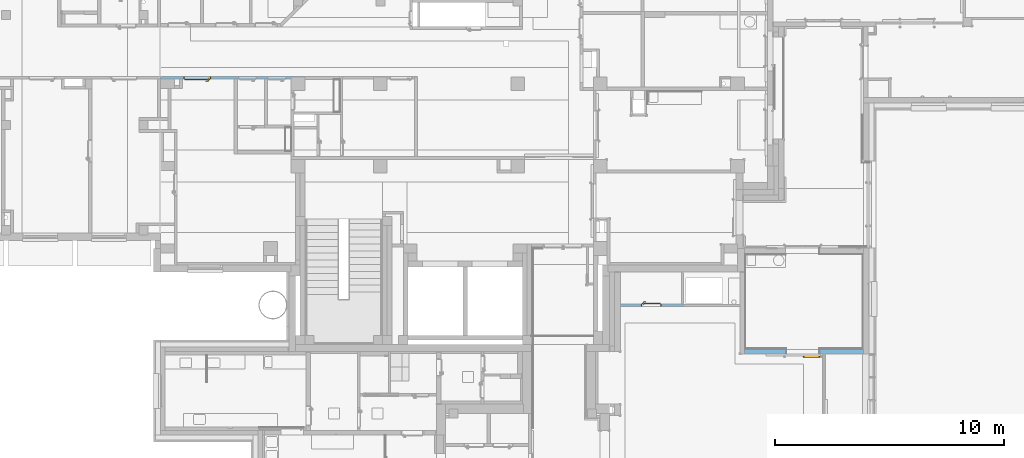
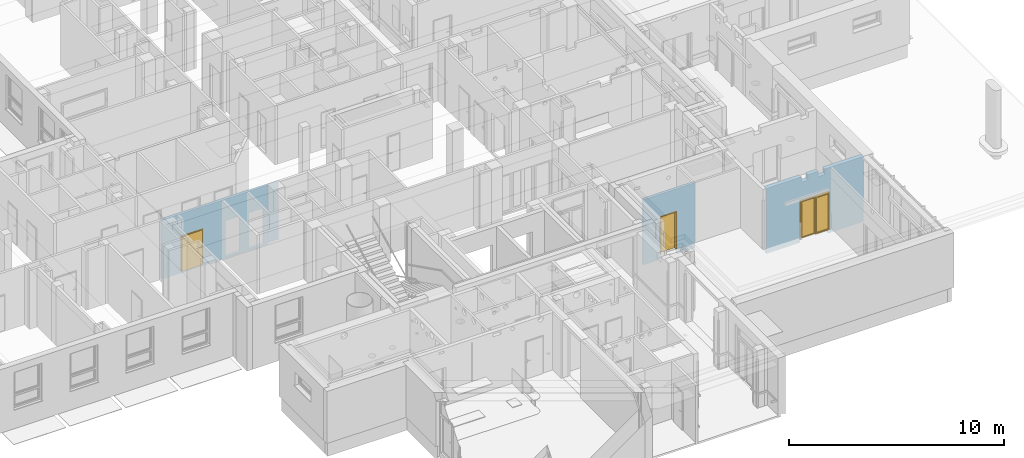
# One storey, part 78 of 140: 3 doors, 7 openings, plus 3 elements that do not belong to this part.
"""IFC4 building model written with IfcOpenShell, lengths in metres."""

from ifc_helpers import new_model, entity, si_unit, converted_unit, derived_unit, frame, frame_2d, origin, origin_with_axes, place, context, subcontext, project, spatial, polyline, rectangle, outline, extrude, closed_shell, open_shell, surface_model, source, transform, mapped, material, layer, layer_set, layer_usage, type_object, element, fill, save


model = new_model("IFC4")

# Units and contexts
model_context = context("Model", 3, precision=1e-05, world=origin())
body_context = subcontext(model_context, "Body", "Model", "MODEL_VIEW")
ifc_project = project(units=[si_unit("LENGTHUNIT", "METRE"), si_unit("AREAUNIT", "SQUARE_METRE"), si_unit("VOLUMEUNIT", "CUBIC_METRE"), si_unit("MASSUNIT", "GRAM", prefix="KILO"), converted_unit("PLANEANGLEUNIT", "DEGREE", entity("IfcPlaneAngleMeasure", 0.0174532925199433), si_unit("PLANEANGLEUNIT", "RADIAN"), dimensions=[0, 0, 0, 0, 0, 0, 0]), derived_unit("THERMALTRANSMITTANCEUNIT", [(si_unit("POWERUNIT", "WATT"), 1), (si_unit("THERMODYNAMICTEMPERATUREUNIT", "KELVIN"), -1), (si_unit("LENGTHUNIT", "METRE"), -2)]), derived_unit("VOLUMETRICFLOWRATEUNIT", [(si_unit("LENGTHUNIT", "METRE"), 3), (converted_unit("TIMEUNIT", "hour", entity("IfcTimeMeasure", 3600.0), si_unit("TIMEUNIT", "SECOND"), dimensions=[0, 0, 1, 0, 0, 0, 0]), -1), (si_unit("LENGTHUNIT", "METRE"), -1)])], contexts=[model_context])

# Site, building, storey
site_placement = place(None, origin())
site = spatial("IfcSite", under=ifc_project, at=site_placement, Name="3. ASŘ", CompositionType="ELEMENT")
building_placement = place(site_placement, origin())
building = spatial("IfcBuilding", under=site, at=building_placement, Name="Pavilon C", CompositionType="ELEMENT")
storey_placement = place(building_placement, origin())
storey = spatial("IfcBuildingStorey", under=building, at=storey_placement, Name="Půdorys 1.NP", CompositionType="ELEMENT", Elevation=0.0)

# Wall, openings, door
ifc_material_1 = material(Name="ZDIVO Z CDm")
ifc_layer_1 = layer(ifc_material_1, 0.125)
ifc_layer_set_1 = layer_set([ifc_layer_1])
ifc_layer_usage_1 = layer_usage(ifc_layer_set_1, "AXIS2", "POSITIVE", 0.0)
wall_1_placement = place(storey_placement, frame((31.05, 7.525, -0.1), z_axis=(0.0, 0.0, 1.0), x_axis=(-1.0, 0.0, 0.0)))
wall_1 = element("IfcWall", 1, at=wall_1_placement, inside=storey, material=ifc_layer_usage_1, Name="ZDIVO Z CDm", context=body_context, shape_type="SweptSolid", body=[
    extrude(outline(polyline([(-6.3, -0.125), (0.0, -0.125), (0.0, 0.0), (-5.7, 0.0), (-5.7, -0.0999999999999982), (-6.3, -0.0999999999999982), (-6.3, -0.125)])), frame((6.3, 0.125, 0.0), z_axis=(0.0, 0.0, 1.0), x_axis=(1.0, 0.0, 0.0)), (0.0, 0.0, 1.0), 3.35),
])
opening_1_placement = place(wall_1_placement, frame((4.1, 0.0, 0.1), z_axis=(0.0, 1.0, 0.0), x_axis=(0.0, 0.0, 1.0)))
opening_1 = element("IfcOpeningElement", 2, at=opening_1_placement, cuts=wall_1, Name="Dveřní otvor", ObjectType="Opening", context=body_context, shape_type="SweptSolid", body=[
    extrude(outline(polyline([(0.0, 1.2), (2.02, 1.2), (2.02, 0.0), (0.0, 0.0), (0.0, 1.2)])), origin_with_axes(), (0.0, 0.0, 1.0), 0.125),
])
opening_2_placement = place(wall_1_placement, frame((1.62499999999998, 0.125, 0.1), z_axis=(0.0, -1.0, 0.0), x_axis=(0.0, 0.0, 1.0)))
element("IfcOpeningElement", 3, at=opening_2_placement, cuts=wall_1, Name="Dveřní otvor", ObjectType="Opening", context=body_context, shape_type="SweptSolid", body=[
    extrude(outline(polyline([(0.0, 0.8), (2.02, 0.8), (2.02, 0.0), (0.0, 0.0), (0.0, 0.8)])), origin_with_axes(), (0.0, 0.0, 1.0), 0.125),
])
opening_3_placement = place(wall_1_placement, frame((2.09999999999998, 0.0, 0.1), z_axis=(0.0, 1.0, 0.0), x_axis=(0.0, 0.0, 1.0)))
element("IfcOpeningElement", 4, at=opening_3_placement, cuts=wall_1, Name="Dveřní otvor", ObjectType="Opening", context=body_context, shape_type="SweptSolid", body=[
    extrude(outline(polyline([(0.0, 0.8), (2.02, 0.8), (2.02, 0.0), (0.0, 0.0), (0.0, 0.8)])), origin_with_axes(), (0.0, 0.0, 1.0), 0.125),
])
door_type_1 = type_object("IfcDoorType", Name="D101", OperationType="NOTDEFINED", ParameterTakesPrecedence=False, PredefinedType="DOOR")
shared_shape_1 = source(origin_with_axes(), body_context, "Body", "SurfaceModel", [
    surface_model("IfcShellBasedSurfaceModel", [(0.0, 0.125, 2.02), (0.0, 0.125, -7.65404249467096e-18), (0.05, 0.125, -7.65404249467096e-18), (0.05, 0.125, 2.02), (0.0, 0.0, 7.65404249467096e-18), (0.0, 2.41584530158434e-16, 2.02), (0.05, 2.41584530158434e-16, 2.02), (0.05, 0.0, 7.65404249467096e-18)], [closed_shell([[[0, 1, 2, 3]], [[4, 5, 6, 7]], [[1, 0, 5, 4]], [[2, 1, 4, 7]], [[3, 2, 7, 6]], [[0, 3, 6, 5]]], orient=[[False], [False], [False], [False], [False], [False]])]),
    surface_model("IfcShellBasedSurfaceModel", [(1.15, 0.125, 2.02), (1.15, 0.125, -7.65404249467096e-18), (1.2, 0.125, -7.65404249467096e-18), (1.2, 0.125, 2.02), (1.15, 0.0, 7.65404249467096e-18), (1.15, 2.41584530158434e-16, 2.02), (1.2, 2.41584530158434e-16, 2.02), (1.2, 0.0, 7.65404249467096e-18)], [closed_shell([[[0, 1, 2, 3]], [[4, 5, 6, 7]], [[1, 0, 5, 4]], [[2, 1, 4, 7]], [[3, 2, 7, 6]], [[0, 3, 6, 5]]], orient=[[False], [False], [False], [False], [False], [False]])]),
    surface_model("IfcShellBasedSurfaceModel", [(0.05, 0.125, 2.02), (0.05, 0.125, 1.97), (1.15, 0.125, 1.97), (1.15, 0.125, 2.02), (0.05, 2.41584530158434e-16, 1.97), (0.05, 2.41584530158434e-16, 2.02), (1.15, 2.41584530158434e-16, 2.02), (1.15, 2.41584530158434e-16, 1.97)], [closed_shell([[[0, 1, 2, 3]], [[4, 5, 6, 7]], [[1, 0, 5, 4]], [[2, 1, 4, 7]], [[3, 2, 7, 6]], [[0, 3, 6, 5]]], orient=[[False], [False], [False], [False], [False], [False]])]),
    surface_model("IfcShellBasedSurfaceModel", [(0.05, 0.165, 1.97), (0.05, 0.165, -1.25526296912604e-17), (1.15, 0.165, -1.25526296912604e-17), (1.15, 0.165, 1.97), (0.05, 0.125, -7.65404249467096e-18), (0.05, 0.125, 1.97), (1.15, 0.125, 1.97), (1.15, 0.125, -7.65404249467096e-18)], [closed_shell([[[0, 1, 2, 3]], [[4, 5, 6, 7]], [[1, 0, 5, 4]], [[2, 1, 4, 7]], [[3, 2, 7, 6]], [[0, 3, 6, 5]]], orient=[[False], [False], [False], [False], [False], [False]])]),
    surface_model("IfcShellBasedSurfaceModel", [(1.06, 0.125, 1.125), (1.06, 0.125, 0.91), (1.11, 0.125, 0.91), (1.11, 0.125, 1.125), (1.06, 0.115, 0.91), (1.06, 0.115, 1.125), (1.11, 0.115, 1.125), (1.11, 0.115, 0.91)], [closed_shell([[[0, 1, 2, 3]], [[4, 5, 6, 7]], [[1, 0, 5, 4]], [[2, 1, 4, 7]], [[3, 2, 7, 6]], [[0, 3, 6, 5]]], orient=[[False], [False], [False], [False], [False], [False]])]),
    surface_model("IfcShellBasedSurfaceModel", [(1.085, 0.115, 1.06), (1.08, 0.115, 1.05866025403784), (1.07633974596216, 0.115, 1.055), (1.075, 0.115, 1.05), (1.07633974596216, 0.115, 1.045), (1.08, 0.115, 1.04133974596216), (1.085, 0.115, 1.04), (1.09, 0.115, 1.04133974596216), (1.09366025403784, 0.115, 1.045), (1.095, 0.115, 1.05), (1.09366025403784, 0.115, 1.055), (1.09, 0.115, 1.05866025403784), (1.09, 0.0700000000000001, 1.05866025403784), (1.085, 0.0750000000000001, 1.06), (1.09366025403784, 0.0663397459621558, 1.055), (1.095, 0.0650000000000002, 1.05), (1.09366025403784, 0.0663397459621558, 1.045), (1.09, 0.0700000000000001, 1.04133974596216), (1.085, 0.0750000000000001, 1.04), (1.08, 0.0800000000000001, 1.04133974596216), (1.07633974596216, 0.0836602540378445, 1.045), (1.075, 0.0850000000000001, 1.05), (1.07633974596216, 0.0836602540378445, 1.055), (1.08, 0.0800000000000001, 1.05866025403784), (0.97, 0.0700000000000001, 1.05866025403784), (0.97, 0.0750000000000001, 1.06), (0.97, 0.0663397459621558, 1.055), (0.97, 0.0650000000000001, 1.05), (0.97, 0.0663397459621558, 1.045), (0.97, 0.0700000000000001, 1.04133974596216), (0.97, 0.0750000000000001, 1.04), (0.97, 0.0800000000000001, 1.04133974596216), (0.97, 0.0836602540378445, 1.045), (0.97, 0.0850000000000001, 1.05), (0.97, 0.0836602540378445, 1.055), (0.97, 0.0800000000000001, 1.05866025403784)], [open_shell([[[0, 1, 2, 3, 4, 5, 6, 7, 8, 9, 10, 11]], [[0, 11, 12, 13]], [[11, 10, 14, 12]], [[10, 9, 15, 14]], [[9, 8, 16, 15]], [[8, 7, 17, 16]], [[7, 6, 18, 17]], [[6, 5, 19, 18]], [[5, 4, 20, 19]], [[4, 3, 21, 20]], [[3, 2, 22, 21]], [[2, 1, 23, 22]], [[1, 0, 13, 23]], [[13, 12, 24, 25]], [[12, 14, 26, 24]], [[14, 15, 27, 26]], [[15, 16, 28, 27]], [[16, 17, 29, 28]], [[17, 18, 30, 29]], [[18, 19, 31, 30]], [[19, 20, 32, 31]], [[20, 21, 33, 32]], [[21, 22, 34, 33]], [[22, 23, 35, 34]], [[23, 13, 25, 35]]], orient=[[False], [False], [False], [False], [False], [False], [False], [False], [False], [False], [False], [False], [False], [False], [False], [False], [False], [False], [False], [False], [False], [False], [False], [False], [False]])]),
    surface_model("IfcShellBasedSurfaceModel", [(1.06, 0.165, 1.125), (1.11, 0.165, 1.125), (1.11, 0.165, 0.91), (1.06, 0.165, 0.91), (1.06, 0.175, 0.91), (1.11, 0.175, 0.91), (1.11, 0.175, 1.125), (1.06, 0.175, 1.125)], [closed_shell([[[0, 1, 2, 3]], [[4, 5, 6, 7]], [[3, 4, 7, 0]], [[2, 5, 4, 3]], [[1, 6, 5, 2]], [[0, 7, 6, 1]]], orient=[[False], [False], [False], [False], [False], [False]])]),
    surface_model("IfcShellBasedSurfaceModel", [(1.085, 0.175, 1.06), (1.09, 0.175, 1.05866025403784), (1.09366025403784, 0.175, 1.055), (1.095, 0.175, 1.05), (1.09366025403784, 0.175, 1.045), (1.09, 0.175, 1.04133974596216), (1.085, 0.175, 1.04), (1.08, 0.175, 1.04133974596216), (1.07633974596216, 0.175, 1.045), (1.075, 0.175, 1.05), (1.07633974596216, 0.175, 1.055), (1.08, 0.175, 1.05866025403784), (1.085, 0.215, 1.06), (1.09, 0.22, 1.05866025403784), (1.09366025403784, 0.223660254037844, 1.055), (1.095, 0.225, 1.05), (1.09366025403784, 0.223660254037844, 1.045), (1.09, 0.22, 1.04133974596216), (1.085, 0.215, 1.04), (1.08, 0.21, 1.04133974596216), (1.07633974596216, 0.206339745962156, 1.045), (1.075, 0.205, 1.05), (1.07633974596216, 0.206339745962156, 1.055), (1.08, 0.21, 1.05866025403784), (0.97, 0.215, 1.06), (0.97, 0.22, 1.05866025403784), (0.97, 0.223660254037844, 1.055), (0.97, 0.225, 1.05), (0.97, 0.223660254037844, 1.045), (0.97, 0.22, 1.04133974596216), (0.97, 0.215, 1.04), (0.97, 0.21, 1.04133974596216), (0.97, 0.206339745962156, 1.045), (0.97, 0.205, 1.05), (0.97, 0.206339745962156, 1.055), (0.97, 0.21, 1.05866025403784)], [open_shell([[[0, 1, 2, 3, 4, 5, 6, 7, 8, 9, 10, 11]], [[0, 12, 13, 1]], [[1, 13, 14, 2]], [[2, 14, 15, 3]], [[3, 15, 16, 4]], [[4, 16, 17, 5]], [[5, 17, 18, 6]], [[6, 18, 19, 7]], [[7, 19, 20, 8]], [[8, 20, 21, 9]], [[9, 21, 22, 10]], [[10, 22, 23, 11]], [[11, 23, 12, 0]], [[12, 24, 25, 13]], [[13, 25, 26, 14]], [[14, 26, 27, 15]], [[15, 27, 28, 16]], [[16, 28, 29, 17]], [[17, 29, 30, 18]], [[18, 30, 31, 19]], [[19, 31, 32, 20]], [[20, 32, 33, 21]], [[21, 33, 34, 22]], [[22, 34, 35, 23]], [[23, 35, 24, 12]]], orient=[[False], [False], [False], [False], [False], [False], [False], [False], [False], [False], [False], [False], [False], [False], [False], [False], [False], [False], [False], [False], [False], [False], [False], [False], [False]])]),
])
door_1_placement = place(opening_1_placement, frame((0.0, 1.2, -9.09494701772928e-16), z_axis=(1.0, 0.0, 0.0), x_axis=(0.0, -1.0, 1.22464679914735e-16)))
door_1 = element("IfcDoor", 5, at=door_1_placement, inside=storey, type_object=door_type_1, Name="D101", OverallHeight=2.02, OverallWidth=1.2, context=body_context, shape_type="MappedRepresentation", body=[
    mapped(shared_shape_1, transform((0.0, 0.0, 0.0), x_axis=(1.0, 0.0, 0.0), y_axis=(0.0, -1.0, 0.0), z_axis=(0.0, 0.0, 1.0), scale=1.0)),
])
fill(opening_1, door_1)

ifc_material_2 = material(Name="ZELEZOBETONOVÁ KCE")
ifc_layer_2 = layer(ifc_material_2, 0.2)
ifc_layer_set_2 = layer_set([ifc_layer_2])
ifc_layer_usage_2 = layer_usage(ifc_layer_set_2, "AXIS2", "POSITIVE", 0.0)
wall_2_placement = place(storey_placement, frame((50.25, -4.6, -0.3), z_axis=(0.0, 0.0, 1.0), x_axis=(1.0, -1.74902827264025e-16, 0.0)))
wall_2 = element("IfcWall", 6, at=wall_2_placement, inside=storey, material=ifc_layer_usage_2, Name="ZELEZOBETONOVÁ KCE", context=body_context, shape_type="SweptSolid", body=[
    extrude(rectangle(XDim=5.19999999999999, YDim=0.2, at=frame_2d((2.59999999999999, 0.1), x_axis=(1.0, 0.0))), origin_with_axes(), (0.0, 0.0, 1.0), 3.7),
])
opening_4_placement = place(wall_2_placement, frame((3.3, 0.200000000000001, 0.0), z_axis=(0.0, -1.0, 0.0), x_axis=(0.0, 0.0, 1.0)))
opening_4 = element("IfcOpeningElement", 7, at=opening_4_placement, cuts=wall_2, Name="Dveřní otvor", ObjectType="Opening", context=body_context, shape_type="SweptSolid", body=[
    extrude(outline(polyline([(0.0, 1.5), (2.4, 1.5), (2.4, 0.0), (0.0, 0.0), (0.0, 1.5)])), origin_with_axes(), (0.0, 0.0, 1.0), 0.2),
])
opening_5_placement = place(wall_2_placement, frame((1.8726514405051, 3.27532031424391e-16, 3.4), z_axis=(0.0, 1.0, 0.0), x_axis=(0.0, 0.0, 1.0)))
element("IfcOpeningElement", 8, at=opening_5_placement, cuts=wall_2, Name="VZT", ObjectType="Opening", context=body_context, shape_type="SweptSolid", body=[
    extrude(outline(polyline([(0.0, 0.35), (0.3, 0.35), (0.3, 0.0), (0.0, 0.0), (0.0, 0.35)])), origin_with_axes(), (0.0, 0.0, 1.0), 0.2),
])
opening_6_placement = place(wall_2_placement, frame((2.76388476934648, 4.83411260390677e-16, 3.4), z_axis=(0.0, 1.0, 0.0), x_axis=(0.0, 0.0, 1.0)))
element("IfcOpeningElement", 9, at=opening_6_placement, cuts=wall_2, Name="VZT", ObjectType="Opening", context=body_context, shape_type="SweptSolid", body=[
    extrude(outline(polyline([(0.0, 0.38), (0.3, 0.38), (0.3, 0.0), (0.0, 0.0), (0.0, 0.38)])), origin_with_axes(), (0.0, 0.0, 1.0), 0.200000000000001),
])
door_type_2 = type_object("IfcDoorType", Name="I.DH02", OperationType="NOTDEFINED", ParameterTakesPrecedence=False, PredefinedType="DOOR")
shared_shape_2 = source(origin_with_axes(), body_context, "Body", "SurfaceModel", [
    surface_model("IfcShellBasedSurfaceModel", [(0.0, 0.0500000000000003, 2.119), (0.0, 0.05, 0.0), (0.02, 0.05, 0.0), (0.02, 0.0500000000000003, 2.119), (0.0, 0.0, 0.0), (0.0, 2.62900812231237e-16, 2.119), (0.02, 2.62900812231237e-16, 2.119), (0.02, 0.0, 0.0)], [closed_shell([[[0, 1, 2, 3]], [[4, 5, 6, 7]], [[1, 0, 5, 4]], [[2, 1, 4, 7]], [[3, 2, 7, 6]], [[0, 3, 6, 5]]], orient=[[False], [False], [False], [False], [False], [False]])]),
    surface_model("IfcShellBasedSurfaceModel", [(1.52, 0.0500000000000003, 2.119), (1.52, 0.05, 0.0), (1.54, 0.05, 0.0), (1.54, 0.0500000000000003, 2.119), (1.52, 0.0, 0.0), (1.52, 2.62900812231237e-16, 2.119), (1.54, 2.62900812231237e-16, 2.119), (1.54, 0.0, 0.0)], [closed_shell([[[0, 1, 2, 3]], [[4, 5, 6, 7]], [[1, 0, 5, 4]], [[2, 1, 4, 7]], [[3, 2, 7, 6]], [[0, 3, 6, 5]]], orient=[[False], [False], [False], [False], [False], [False]])]),
    surface_model("IfcShellBasedSurfaceModel", [(0.02, 0.0500000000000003, 2.119), (0.02, 0.0500000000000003, 2.099), (1.52, 0.0500000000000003, 2.099), (1.52, 0.0500000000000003, 2.119), (0.02, 2.55795384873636e-16, 2.099), (0.02, 2.55795384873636e-16, 2.119), (1.52, 2.55795384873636e-16, 2.119), (1.52, 2.55795384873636e-16, 2.099)], [closed_shell([[[0, 1, 2, 3]], [[4, 5, 6, 7]], [[1, 0, 5, 4]], [[2, 1, 4, 7]], [[3, 2, 7, 6]], [[0, 3, 6, 5]]], orient=[[False], [False], [False], [False], [False], [False]])]),
    surface_model("IfcShellBasedSurfaceModel", [(0.02, 0.1, 2.099), (0.02, 0.1, 0.0), (0.07, 0.1, 0.0), (0.07, 0.1, 2.099), (0.02, 0.05, 0.0), (0.02, 0.0500000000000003, 2.099), (0.07, 0.0500000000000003, 2.099), (0.07, 0.05, 0.0)], [closed_shell([[[0, 1, 2, 3]], [[4, 5, 6, 7]], [[1, 0, 5, 4]], [[2, 1, 4, 7]], [[3, 2, 7, 6]], [[0, 3, 6, 5]]], orient=[[False], [False], [False], [False], [False], [False]])]),
    surface_model("IfcShellBasedSurfaceModel", [(0.7195, 0.1, 2.099), (0.7195, 0.1, 0.0), (0.7695, 0.1, 0.0), (0.7695, 0.1, 2.099), (0.7195, 0.05, 0.0), (0.7195, 0.0500000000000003, 2.099), (0.7695, 0.0500000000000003, 2.099), (0.7695, 0.05, 0.0)], [closed_shell([[[0, 1, 2, 3]], [[4, 5, 6, 7]], [[1, 0, 5, 4]], [[2, 1, 4, 7]], [[3, 2, 7, 6]], [[0, 3, 6, 5]]], orient=[[False], [False], [False], [False], [False], [False]])]),
    surface_model("IfcShellBasedSurfaceModel", [(0.07, 0.1, 0.05), (0.07, 0.1, 0.0), (0.7195, 0.1, 0.0), (0.7195, 0.1, 0.05), (0.07, 0.05, 0.0), (0.07, 0.05, 0.05), (0.7195, 0.05, 0.05), (0.7195, 0.05, 0.0)], [closed_shell([[[0, 1, 2, 3]], [[4, 5, 6, 7]], [[1, 0, 5, 4]], [[2, 1, 4, 7]], [[3, 2, 7, 6]], [[0, 3, 6, 5]]], orient=[[False], [False], [False], [False], [False], [False]])]),
    surface_model("IfcShellBasedSurfaceModel", [(0.07, 0.1, 2.099), (0.07, 0.1, 2.049), (0.7195, 0.1, 2.049), (0.7195, 0.1, 2.099), (0.07, 0.0500000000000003, 2.049), (0.07, 0.0500000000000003, 2.099), (0.7195, 0.0500000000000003, 2.099), (0.7195, 0.0500000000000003, 2.049)], [closed_shell([[[0, 1, 2, 3]], [[4, 5, 6, 7]], [[1, 0, 5, 4]], [[2, 1, 4, 7]], [[3, 2, 7, 6]], [[0, 3, 6, 5]]], orient=[[False], [False], [False], [False], [False], [False]])]),
    surface_model("IfcShellBasedSurfaceModel", [(0.7705, 0.15, 2.099), (0.7705, 0.15, 0.0), (0.8205, 0.15, 0.0), (0.8205, 0.15, 2.099), (0.7705, 0.05, 0.0), (0.7705, 0.0500000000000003, 2.099), (0.8205, 0.0500000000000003, 2.099), (0.8205, 0.05, 0.0)], [closed_shell([[[0, 1, 2, 3]], [[4, 5, 6, 7]], [[1, 0, 5, 4]], [[2, 1, 4, 7]], [[3, 2, 7, 6]], [[0, 3, 6, 5]]], orient=[[False], [False], [False], [False], [False], [False]])]),
    surface_model("IfcShellBasedSurfaceModel", [(1.47, 0.15, 2.099), (1.47, 0.15, 0.0), (1.52, 0.15, 0.0), (1.52, 0.15, 2.099), (1.47, 0.05, 0.0), (1.47, 0.0500000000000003, 2.099), (1.52, 0.0500000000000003, 2.099), (1.52, 0.05, 0.0)], [closed_shell([[[0, 1, 2, 3]], [[4, 5, 6, 7]], [[1, 0, 5, 4]], [[2, 1, 4, 7]], [[3, 2, 7, 6]], [[0, 3, 6, 5]]], orient=[[False], [False], [False], [False], [False], [False]])]),
    surface_model("IfcShellBasedSurfaceModel", [(0.8205, 0.15, 0.05), (0.8205, 0.15, 0.0), (1.47, 0.15, 0.0), (1.47, 0.15, 0.05), (0.8205, 0.05, 0.0), (0.8205, 0.05, 0.05), (1.47, 0.05, 0.05), (1.47, 0.05, 0.0)], [closed_shell([[[0, 1, 2, 3]], [[4, 5, 6, 7]], [[1, 0, 5, 4]], [[2, 1, 4, 7]], [[3, 2, 7, 6]], [[0, 3, 6, 5]]], orient=[[False], [False], [False], [False], [False], [False]])]),
    surface_model("IfcShellBasedSurfaceModel", [(0.8205, 0.15, 2.099), (0.8205, 0.15, 2.049), (1.47, 0.15, 2.049), (1.47, 0.15, 2.099), (0.8205, 0.0500000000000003, 2.049), (0.8205, 0.0500000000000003, 2.099), (1.47, 0.0500000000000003, 2.099), (1.47, 0.0500000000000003, 2.049)], [closed_shell([[[0, 1, 2, 3]], [[4, 5, 6, 7]], [[1, 0, 5, 4]], [[2, 1, 4, 7]], [[3, 2, 7, 6]], [[0, 3, 6, 5]]], orient=[[False], [False], [False], [False], [False], [False]])]),
    surface_model("IfcShellBasedSurfaceModel", [(0.07, 0.075, 0.05), (0.7195, 0.075, 0.05), (0.7195, 0.0750000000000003, 2.049), (0.07, 0.0750000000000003, 2.049)], [open_shell([[[0, 1, 2, 3]]], orient=[[False]])]),
    surface_model("IfcShellBasedSurfaceModel", [(0.8205, 0.1, 0.05), (1.47, 0.1, 0.05), (1.47, 0.1, 2.049), (0.8205, 0.1, 2.049)], [open_shell([[[0, 1, 2, 3]]], orient=[[False]])]),
])
door_2_placement = place(opening_4_placement, frame((0.301, 1.52, 0.2), z_axis=(1.0, 0.0, 0.0), x_axis=(0.0, -1.0, -5.24381473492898e-17)))
door_2 = element("IfcDoor", 10, at=door_2_placement, inside=storey, type_object=door_type_2, Name="I.DH02", OverallHeight=2.44, OverallWidth=1.58, context=body_context, shape_type="MappedRepresentation", body=[
    mapped(shared_shape_2, transform((0.0, 0.0, 0.0), x_axis=(1.0, 0.0, 0.0), y_axis=(0.0, -1.0, 0.0), z_axis=(0.0, 0.0, 1.0), scale=1.0)),
])
fill(opening_4, door_2)

# Wall, opening, door
ifc_material_3 = material(Name="SDK - 1 KCE + DVOJITÉ OPLÁŠTĚNÍ")
ifc_layer_3 = layer(ifc_material_3, 0.125)
ifc_layer_set_3 = layer_set([ifc_layer_3])
ifc_layer_usage_3 = layer_usage(ifc_layer_set_3, "AXIS2", "POSITIVE", 0.0)
wall_3_placement = place(storey_placement, frame((44.83, -2.54000000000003, -0.3), z_axis=(0.0, 0.0, 1.0), x_axis=(1.0, -1.64168718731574e-16, 0.0)))
wall_3 = element("IfcWall", 11, at=wall_3_placement, inside=storey, material=ifc_layer_usage_3, Name="SDK - 1 KCE + DVOJITÉ OPLÁŠTĚNÍ", context=body_context, shape_type="SweptSolid", body=[
    extrude(rectangle(XDim=2.77000000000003, YDim=0.125, at=frame_2d((1.38500000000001, 0.0625), x_axis=(1.0, 0.0))), origin_with_axes(), (0.0, 0.0, 1.0), 3.7),
])
opening_7_placement = place(wall_3_placement, frame((0.9, 1.47751846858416e-16, 0.0), z_axis=(0.0, 1.0, 0.0), x_axis=(0.0, 0.0, 1.0)))
opening_7 = element("IfcOpeningElement", 12, at=opening_7_placement, cuts=wall_3, Name="Dveřní otvor", ObjectType="Opening", context=body_context, shape_type="SweptSolid", body=[
    extrude(outline(polyline([(0.0, 0.9), (2.45, 0.9), (2.45, 0.0), (0.0, 0.0), (0.0, 0.9)])), origin_with_axes(), (0.0, 0.0, 1.0), 0.125),
])
door_type_3 = type_object("IfcDoorType", Name="I.D101", OperationType="NOTDEFINED", ParameterTakesPrecedence=False, PredefinedType="DOOR")
shared_shape_3 = source(origin_with_axes(), body_context, "Body", "SurfaceModel", [
    surface_model("IfcShellBasedSurfaceModel", [(0.0, 0.125, 2.149), (0.0, 0.125, -5.6843418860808e-17), (0.05, 0.125, -5.6843418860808e-17), (0.05, 0.125, 2.149), (0.0, 0.0, -5.6843418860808e-17), (0.0, 2.70006239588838e-16, 2.149), (0.05, 2.70006239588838e-16, 2.149), (0.05, 0.0, -5.6843418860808e-17)], [closed_shell([[[0, 1, 2, 3]], [[4, 5, 6, 7]], [[1, 0, 5, 4]], [[2, 1, 4, 7]], [[3, 2, 7, 6]], [[0, 3, 6, 5]]], orient=[[False], [False], [False], [False], [False], [False]])]),
    surface_model("IfcShellBasedSurfaceModel", [(0.85, 0.125, 2.149), (0.85, 0.125, -5.6843418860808e-17), (0.9, 0.125, -5.6843418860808e-17), (0.9, 0.125, 2.149), (0.85, 0.0, -5.6843418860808e-17), (0.85, 2.70006239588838e-16, 2.149), (0.9, 2.70006239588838e-16, 2.149), (0.9, 0.0, -5.6843418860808e-17)], [closed_shell([[[0, 1, 2, 3]], [[4, 5, 6, 7]], [[1, 0, 5, 4]], [[2, 1, 4, 7]], [[3, 2, 7, 6]], [[0, 3, 6, 5]]], orient=[[False], [False], [False], [False], [False], [False]])]),
    surface_model("IfcShellBasedSurfaceModel", [(0.05, 0.125, 2.149), (0.05, 0.125, 2.099), (0.85, 0.125, 2.099), (0.85, 0.125, 2.149), (0.05, 2.55795384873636e-16, 2.099), (0.05, 2.55795384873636e-16, 2.149), (0.85, 2.55795384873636e-16, 2.149), (0.85, 2.55795384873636e-16, 2.099)], [closed_shell([[[0, 1, 2, 3]], [[4, 5, 6, 7]], [[1, 0, 5, 4]], [[2, 1, 4, 7]], [[3, 2, 7, 6]], [[0, 3, 6, 5]]], orient=[[False], [False], [False], [False], [False], [False]])]),
    surface_model("IfcShellBasedSurfaceModel", [(0.05, 0.165, 2.099), (0.05, 0.165, -5.6843418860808e-17), (0.85, 0.165, -5.6843418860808e-17), (0.85, 0.165, 2.099), (0.05, 0.125, -5.6843418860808e-17), (0.05, 0.125, 2.099), (0.85, 0.125, 2.099), (0.85, 0.125, -5.6843418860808e-17)], [closed_shell([[[0, 1, 2, 3]], [[4, 5, 6, 7]], [[1, 0, 5, 4]], [[2, 1, 4, 7]], [[3, 2, 7, 6]], [[0, 3, 6, 5]]], orient=[[False], [False], [False], [False], [False], [False]])]),
    surface_model("IfcShellBasedSurfaceModel", [(0.76, 0.125, 1.125), (0.76, 0.125, 0.91), (0.81, 0.125, 0.91), (0.81, 0.125, 1.125), (0.76, 0.115, 0.91), (0.76, 0.115, 1.125), (0.81, 0.115, 1.125), (0.81, 0.115, 0.91)], [closed_shell([[[0, 1, 2, 3]], [[4, 5, 6, 7]], [[1, 0, 5, 4]], [[2, 1, 4, 7]], [[3, 2, 7, 6]], [[0, 3, 6, 5]]], orient=[[False], [False], [False], [False], [False], [False]])]),
    surface_model("IfcShellBasedSurfaceModel", [(0.785, 0.115, 1.06), (0.78, 0.115, 1.05866025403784), (0.776339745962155, 0.115, 1.055), (0.775, 0.115, 1.05), (0.776339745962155, 0.115, 1.045), (0.78, 0.115, 1.04133974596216), (0.785, 0.115, 1.04), (0.79, 0.115, 1.04133974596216), (0.793660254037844, 0.115, 1.045), (0.795, 0.115, 1.05), (0.793660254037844, 0.115, 1.055), (0.79, 0.115, 1.05866025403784), (0.79, 0.0700000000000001, 1.05866025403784), (0.785, 0.0750000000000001, 1.06), (0.793660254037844, 0.0663397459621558, 1.055), (0.795, 0.0650000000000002, 1.05), (0.793660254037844, 0.0663397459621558, 1.045), (0.79, 0.0700000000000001, 1.04133974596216), (0.785, 0.0750000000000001, 1.04), (0.78, 0.0800000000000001, 1.04133974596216), (0.776339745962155, 0.0836602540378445, 1.045), (0.775, 0.0850000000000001, 1.05), (0.776339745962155, 0.0836602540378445, 1.055), (0.78, 0.0800000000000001, 1.05866025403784), (0.67, 0.0700000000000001, 1.05866025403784), (0.67, 0.0750000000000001, 1.06), (0.67, 0.0663397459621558, 1.055), (0.67, 0.0650000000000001, 1.05), (0.67, 0.0663397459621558, 1.045), (0.67, 0.0700000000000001, 1.04133974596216), (0.67, 0.0750000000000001, 1.04), (0.67, 0.0800000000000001, 1.04133974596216), (0.67, 0.0836602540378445, 1.045), (0.67, 0.0850000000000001, 1.05), (0.67, 0.0836602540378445, 1.055), (0.67, 0.0800000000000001, 1.05866025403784)], [open_shell([[[0, 1, 2, 3, 4, 5, 6, 7, 8, 9, 10, 11]], [[0, 11, 12, 13]], [[11, 10, 14, 12]], [[10, 9, 15, 14]], [[9, 8, 16, 15]], [[8, 7, 17, 16]], [[7, 6, 18, 17]], [[6, 5, 19, 18]], [[5, 4, 20, 19]], [[4, 3, 21, 20]], [[3, 2, 22, 21]], [[2, 1, 23, 22]], [[1, 0, 13, 23]], [[13, 12, 24, 25]], [[12, 14, 26, 24]], [[14, 15, 27, 26]], [[15, 16, 28, 27]], [[16, 17, 29, 28]], [[17, 18, 30, 29]], [[18, 19, 31, 30]], [[19, 20, 32, 31]], [[20, 21, 33, 32]], [[21, 22, 34, 33]], [[22, 23, 35, 34]], [[23, 13, 25, 35]]], orient=[[False], [False], [False], [False], [False], [False], [False], [False], [False], [False], [False], [False], [False], [False], [False], [False], [False], [False], [False], [False], [False], [False], [False], [False], [False]])]),
    surface_model("IfcShellBasedSurfaceModel", [(0.76, 0.165, 1.125), (0.81, 0.165, 1.125), (0.81, 0.165, 0.91), (0.76, 0.165, 0.91), (0.76, 0.175, 0.91), (0.81, 0.175, 0.91), (0.81, 0.175, 1.125), (0.76, 0.175, 1.125)], [closed_shell([[[0, 1, 2, 3]], [[4, 5, 6, 7]], [[3, 4, 7, 0]], [[2, 5, 4, 3]], [[1, 6, 5, 2]], [[0, 7, 6, 1]]], orient=[[False], [False], [False], [False], [False], [False]])]),
    surface_model("IfcShellBasedSurfaceModel", [(0.785, 0.175, 1.06), (0.79, 0.175, 1.05866025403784), (0.793660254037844, 0.175, 1.055), (0.795, 0.175, 1.05), (0.793660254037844, 0.175, 1.045), (0.79, 0.175, 1.04133974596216), (0.785, 0.175, 1.04), (0.78, 0.175, 1.04133974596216), (0.776339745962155, 0.175, 1.045), (0.775, 0.175, 1.05), (0.776339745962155, 0.175, 1.055), (0.78, 0.175, 1.05866025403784), (0.785, 0.215, 1.06), (0.79, 0.22, 1.05866025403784), (0.793660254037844, 0.223660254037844, 1.055), (0.795, 0.225, 1.05), (0.793660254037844, 0.223660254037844, 1.045), (0.79, 0.22, 1.04133974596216), (0.785, 0.215, 1.04), (0.78, 0.21, 1.04133974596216), (0.776339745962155, 0.206339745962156, 1.045), (0.775, 0.205, 1.05), (0.776339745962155, 0.206339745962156, 1.055), (0.78, 0.21, 1.05866025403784), (0.67, 0.215, 1.06), (0.67, 0.22, 1.05866025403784), (0.67, 0.223660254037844, 1.055), (0.67, 0.225, 1.05), (0.67, 0.223660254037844, 1.045), (0.67, 0.22, 1.04133974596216), (0.67, 0.215, 1.04), (0.67, 0.21, 1.04133974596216), (0.67, 0.206339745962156, 1.045), (0.67, 0.205, 1.05), (0.67, 0.206339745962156, 1.055), (0.67, 0.21, 1.05866025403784)], [open_shell([[[0, 1, 2, 3, 4, 5, 6, 7, 8, 9, 10, 11]], [[0, 12, 13, 1]], [[1, 13, 14, 2]], [[2, 14, 15, 3]], [[3, 15, 16, 4]], [[4, 16, 17, 5]], [[5, 17, 18, 6]], [[6, 18, 19, 7]], [[7, 19, 20, 8]], [[8, 20, 21, 9]], [[9, 21, 22, 10]], [[10, 22, 23, 11]], [[11, 23, 12, 0]], [[12, 24, 25, 13]], [[13, 25, 26, 14]], [[14, 26, 27, 15]], [[15, 27, 28, 16]], [[16, 28, 29, 17]], [[17, 29, 30, 18]], [[18, 30, 31, 19]], [[19, 31, 32, 20]], [[20, 32, 33, 21]], [[21, 33, 34, 22]], [[22, 34, 35, 23]], [[23, 35, 24, 12]]], orient=[[False], [False], [False], [False], [False], [False], [False], [False], [False], [False], [False], [False], [False], [False], [False], [False], [False], [False], [False], [False], [False], [False], [False], [False], [False]])]),
])
door_3_placement = place(opening_7_placement, frame((0.301, 0.9, -4.54747350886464e-16), z_axis=(1.0, 0.0, 0.0), x_axis=(0.0, -1.0, -1.64168718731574e-16)))
door_3 = element("IfcDoor", 13, at=door_3_placement, inside=storey, type_object=door_type_3, Name="I.D101", OverallHeight=2.45, OverallWidth=0.9, context=body_context, shape_type="MappedRepresentation", body=[
    mapped(shared_shape_3, transform((0.0, 0.0, 0.0), x_axis=(1.0, 0.0, 0.0), y_axis=(0.0, -1.0, 0.0), z_axis=(0.0, 0.0, 1.0), scale=1.0)),
])
fill(opening_7, door_3)

save(model, "model.ifc")
